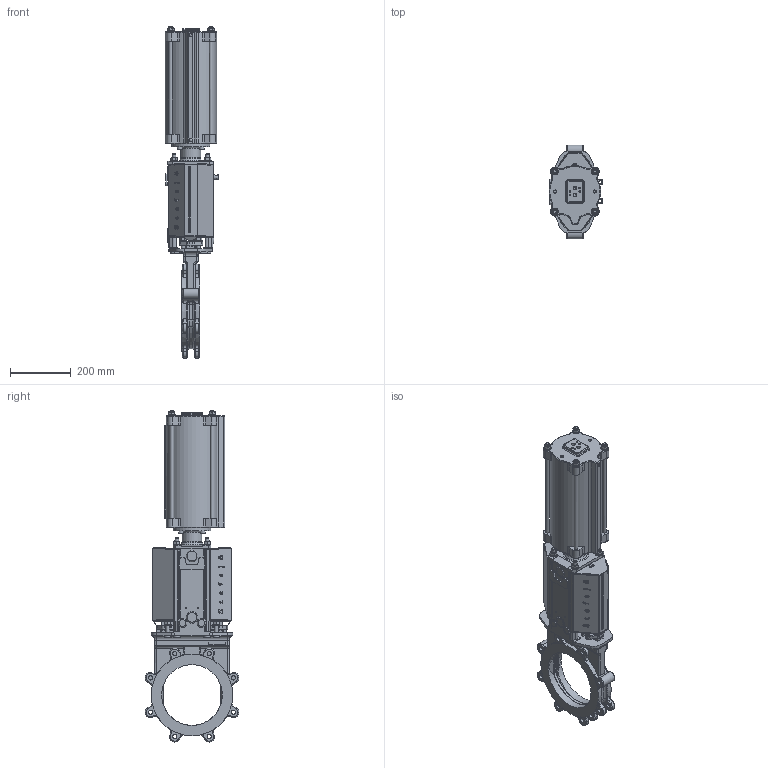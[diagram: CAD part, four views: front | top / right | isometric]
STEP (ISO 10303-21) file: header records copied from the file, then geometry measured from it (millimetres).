
FILE_DESCRIPTION(/* description */ (''),/* implementation_level */ '2;1');
FILE_NAME(/* name */ 'G:\KONSTRUK\3-D Block för kund\WB SERIE\WB14-E\PNEUMATIC ACTUATOR\SC-Cylinder\200\WB14E-DN200-PN10-FRSC160-215.stp',/* time_stamp */ '2022-07-27T11:47:47+02:00',/* author */ ('davkar'),/* organization */ (''),/* preprocessor_version */ 'ST-DEVELOPER v18.1',/* originating_system */ 'Autodesk Inventor 2020',/* authorisation */ '');
FILE_SCHEMA (('AUTOMOTIVE_DESIGN { 1 0 10303 214 3 1 1 }'));
Products named in the file (1): WB14E-DN200-PN10-FRSC160-215_Shrinkwrap_1
Bounding box: 177.5 x 309.3 x 1093.65 mm (x, y, z)
Volume: 7023175 mm3; surface area: 1828025.2 mm2
Topology: 2 solids, 2 shells, 3448 faces, 9262 edges, 5835 vertices
Faces by surface type: plane 1288, cylinder 1074, bspline 505, torus 303, cone 186, sphere 92
Full cylindrical faces by diameter (mm): 3 x10, 3.023 x6, 3.6 x5, 3.7 x8, 4 x6, 4.134 x4, 4.2 x15, 4.917 x4, 7 x1, 8 x2, 8.376 x2, 9.5 x4, 10 x11, 10.106 x4, 11 x2, 11.445 x2, 12 x28, 13 x15, 13.835 x16, 14 x4, 15 x4, 16 x8, 17.7 x1, 18 x8, 20 x3, 24 x16, 28 x4, 30 x1, 30.1 x2, 34 x1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
Entity records: 125172 total; most frequent: CARTESIAN_POINT 40301, ORIENTED_EDGE 18412, DIRECTION 17345, EDGE_CURVE 9206, AXIS2_PLACEMENT_3D 6702, VERTEX_POINT 5835, LINE 3941, VECTOR 3941
